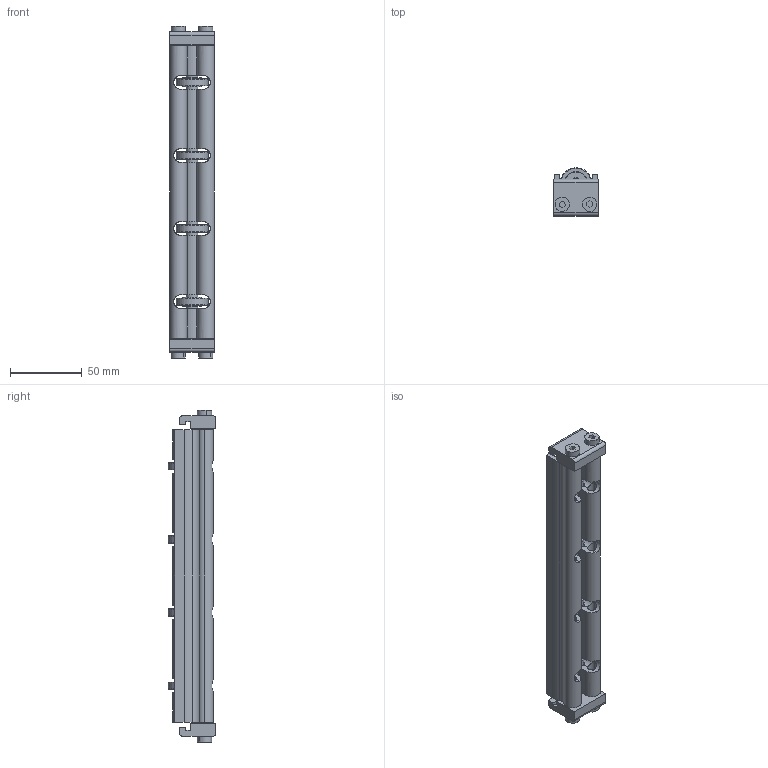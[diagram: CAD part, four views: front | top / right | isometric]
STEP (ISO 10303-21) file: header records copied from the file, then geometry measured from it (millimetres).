
FILE_DESCRIPTION((''),'2;1');
FILE_NAME('324908_ASM','2023-03-14T',('jenni.wallner'),(''),'PRO/ENGINEER BY PARAMETRIC TECHNOLOGY CORPORATION, 2012420','PRO/ENGINEER BY PARAMETRIC TECHNOLOGY CORPORATION, 2012420','');
FILE_SCHEMA(('CONFIG_CONTROL_DESIGN'));
Length unit declared in the file: inch
Products named in the file (7): 240826; X920693M; 240827_CAE; 2436WW_243608; 2410WW_CAE_241008; ASM0001_ASM; 324908_ASM
Assembly tree (13 placements, depth 3):
  324908_ASM
    ASM0001_ASM
      240826  x4
      X920693M  x4
      240827_CAE  x2
      2436WW_243608
      2410WW_CAE_241008
Bounding box: 30.88 x 33.34 x 230.61 mm (x, y, z)
Volume: 108422.3 mm3; surface area: 67204.9 mm2
Topology: 12 solids, 12 shells, 328 faces, 896 edges, 592 vertices
Faces by surface type: cylinder 146, plane 130, cone 36, torus 16
Entity records: 8065 total; most frequent: CARTESIAN_POINT 1955, DIRECTION 1304, ORIENTED_EDGE 1264, EDGE_CURVE 632, AXIS2_PLACEMENT_3D 500, VERTEX_POINT 420, VECTOR 304, LINE 304
